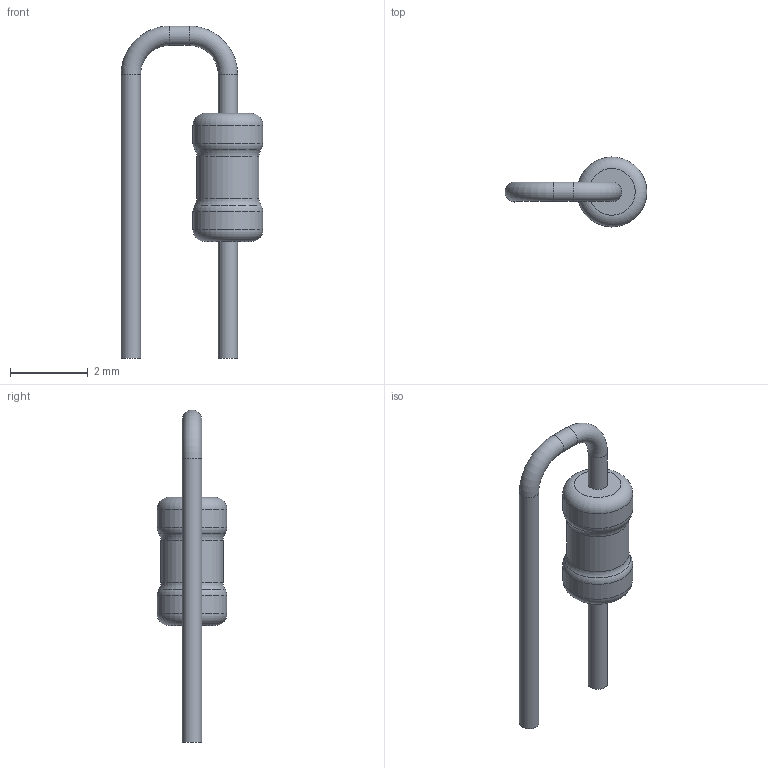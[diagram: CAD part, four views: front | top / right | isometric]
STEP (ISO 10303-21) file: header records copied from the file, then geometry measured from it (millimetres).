
FILE_DESCRIPTION(('STEP AP203'), '1');
FILE_NAME('栖闉罻', '', ('UNSPECIFIED'), ('UNSPECIFIED'), 'ASCON STEP Converter 1.6', 'ASCON Math Kernel', '');
FILE_SCHEMA(('CONFIG_CONTROL_DESIGN'));
Length unit declared in the file: millimetre
Assembly tree (1 placements, depth 2):
  (unnamed)
    (unnamed)
Bounding box: 3.65 x 1.8 x 8.55 mm (x, y, z)
Volume: 10.4 mm3; surface area: 45 mm2
Topology: 1 solids, 1 shells, 19 faces, 33 edges, 18 vertices
Faces by surface type: torus 8, cylinder 7, plane 4
Full cylindrical faces by diameter (mm): 0.5 x4, 1.6 x1, 1.8 x2
Entity records: 620 total; most frequent: DIRECTION 78, CARTESIAN_POINT 57, AXIS2_PLACEMENT_3D 39, EDGE_LOOP 36, ORIENTED_EDGE 36, FACE_OUTER_BOUND 30, COLOUR_RGB 20, FILL_AREA_STYLE_COLOUR 20
